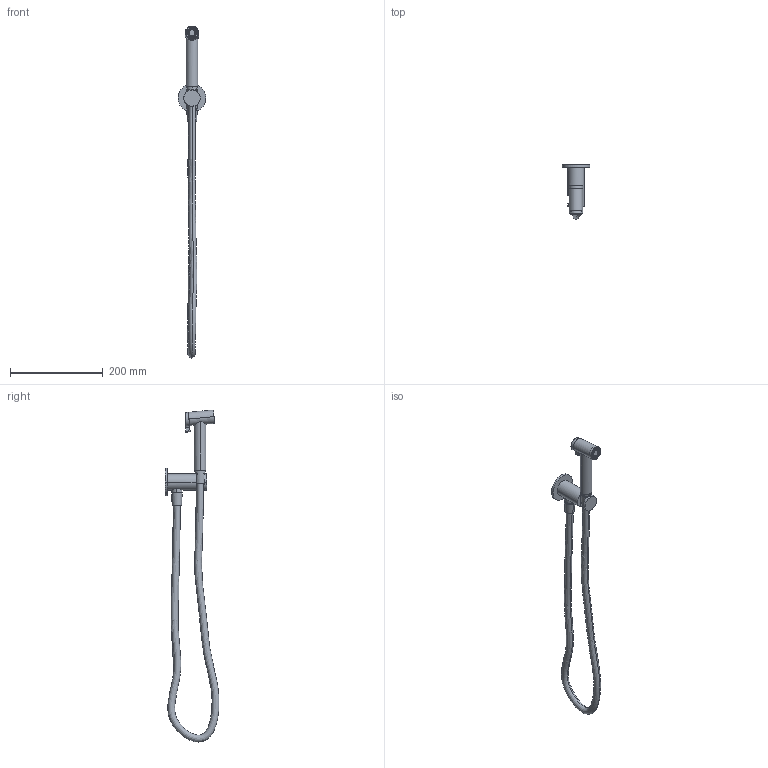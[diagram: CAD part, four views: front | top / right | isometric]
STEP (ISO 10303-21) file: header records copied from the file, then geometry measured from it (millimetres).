
FILE_DESCRIPTION(/* description */ (''),/* implementation_level */ '2;1');
FILE_NAME(/* name */ 'ST3500ACC_3D',/* time_stamp */ '2024-10-24T15:16:34+02:00',/* author */ (''),/* organization */ (''),/* preprocessor_version */ 'ST-DEVELOPER v16.5',/* originating_system */ 'Rhino 7.37',/* authorisation */ '');
FILE_SCHEMA (('CONFIG_CONTROL_DESIGN'));
Length unit declared in the file: millimetre
Products named in the file (1): Document
Bounding box: 60 x 116.24 x 715.61 mm (x, y, z)
Volume: 205846 mm3; surface area: 97376.5 mm2
Topology: 5 solids, 9 shells, 145 faces, 354 edges, 233 vertices
Faces by surface type: cylinder 79, bspline 36, plane 30
Entity records: 11680 total; most frequent: CARTESIAN_POINT 9228, ORIENTED_EDGE 690, EDGE_CURVE 354, VERTEX_POINT 233, EDGE_LOOP 191, B_SPLINE_CURVE_WITH_KNOTS 184, ADVANCED_FACE 145, FACE_OUTER_BOUND 145
